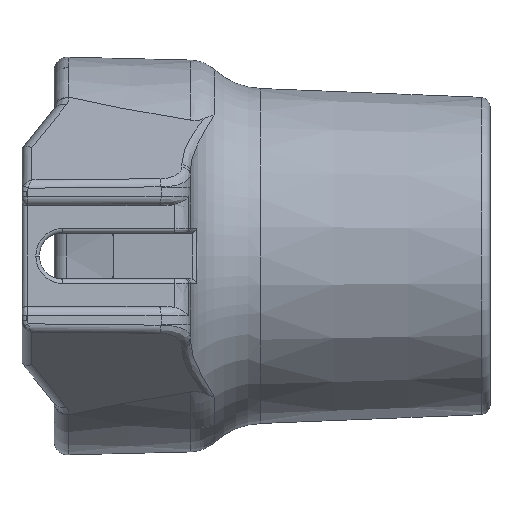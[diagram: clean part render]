
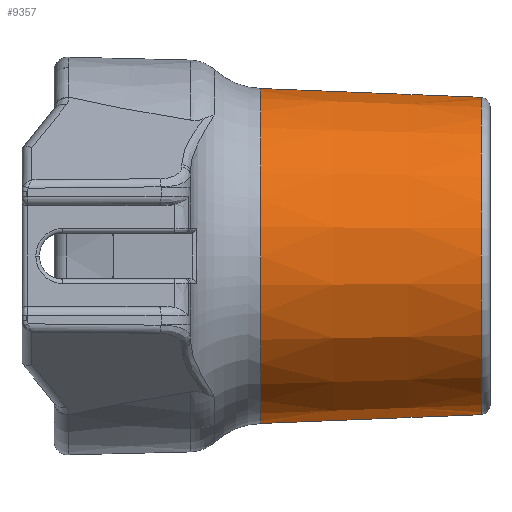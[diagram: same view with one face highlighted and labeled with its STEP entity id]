
A CAD part, left-side view. The second image highlights one B-rep face of the part: STEP entity #9357.
In plain terms, the highlighted conical face has half-angle 2.291 degrees and reference radius 17.25 mm.
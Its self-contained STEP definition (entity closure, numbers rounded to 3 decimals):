
#82 = CARTESIAN_POINT ( 'NONE',  ( 0., 0.96, 17.288 ) ) ;
#148 = EDGE_CURVE ( 'NONE', #366, #10690, #1892, .T. ) ;
#366 = VERTEX_POINT ( 'NONE', #1441 ) ;
#560 = VERTEX_POINT ( 'NONE', #9064 ) ;
#633 = ORIENTED_EDGE ( 'NONE', *, *, #6781, .T. ) ;
#829 = ORIENTED_EDGE ( 'NONE', *, *, #1607, .F. ) ;
#1152 = EDGE_CURVE ( 'NONE', #10690, #560, #6277, .T. ) ;
#1441 = CARTESIAN_POINT ( 'NONE',  ( 0., 0.96, -17.288 ) ) ;
#1607 = EDGE_CURVE ( 'NONE', #366, #7917, #5147, .T. ) ;
#1657 = ORIENTED_EDGE ( 'NONE', *, *, #148, .T. ) ;
#1892 = CIRCLE ( 'NONE', #3285, 17.288 ) ;
#2303 = CARTESIAN_POINT ( 'NONE',  ( 0., 0.96, 0. ) ) ;
#2970 = DIRECTION ( 'NONE',  ( 0., 0., -1. ) ) ;
#3027 = ORIENTED_EDGE ( 'NONE', *, *, #1152, .T. ) ;
#3043 = FACE_OUTER_BOUND ( 'NONE', #7123, .T. ) ;
#3159 = CIRCLE ( 'NONE', #4970, 18.25 ) ;
#3285 = AXIS2_PLACEMENT_3D ( 'NONE', #2303, #9192, #2970 ) ;
#3317 = CARTESIAN_POINT ( 'NONE',  ( 0., 25., 0. ) ) ;
#3520 = DIRECTION ( 'NONE',  ( 0., 0., 1. ) ) ;
#4193 = DIRECTION ( 'NONE',  ( 0., 0., -1. ) ) ;
#4198 = CARTESIAN_POINT ( 'NONE',  ( 0., 0., -17.25 ) ) ;
#4860 = VECTOR ( 'NONE', #10263, 1000. ) ;
#4970 = AXIS2_PLACEMENT_3D ( 'NONE', #3317, #9401, #4193 ) ;
#5147 = LINE ( 'NONE', #4198, #4860 ) ;
#5403 = DIRECTION ( 'NONE',  ( 0., 0.999, 0.04 ) ) ;
#5602 = AXIS2_PLACEMENT_3D ( 'NONE', #8746, #10415, #3520 ) ;
#5848 = VECTOR ( 'NONE', #5403, 1000. ) ;
#5978 = CARTESIAN_POINT ( 'NONE',  ( 0., 25., -18.25 ) ) ;
#6277 = LINE ( 'NONE', #9709, #5848 ) ;
#6781 = EDGE_CURVE ( 'NONE', #560, #7917, #3159, .T. ) ;
#7123 = EDGE_LOOP ( 'NONE', ( #829, #1657, #3027, #633 ) ) ;
#7164 = CONICAL_SURFACE ( 'NONE', #5602, 17.25, 0.04 ) ;
#7917 = VERTEX_POINT ( 'NONE', #5978 ) ;
#8746 = CARTESIAN_POINT ( 'NONE',  ( 0., 0., 0. ) ) ;
#9064 = CARTESIAN_POINT ( 'NONE',  ( 0., 25., 18.25 ) ) ;
#9192 = DIRECTION ( 'NONE',  ( 0., 1., 0. ) ) ;
#9357 = ADVANCED_FACE ( 'NONE', ( #3043 ), #7164, .T. ) ;
#9401 = DIRECTION ( 'NONE',  ( 0., -1., 0. ) ) ;
#9709 = CARTESIAN_POINT ( 'NONE',  ( 0., 0., 17.25 ) ) ;
#10263 = DIRECTION ( 'NONE',  ( 0., 0.999, -0.04 ) ) ;
#10415 = DIRECTION ( 'NONE',  ( 0., 1., 0. ) ) ;
#10690 = VERTEX_POINT ( 'NONE', #82 ) ;
